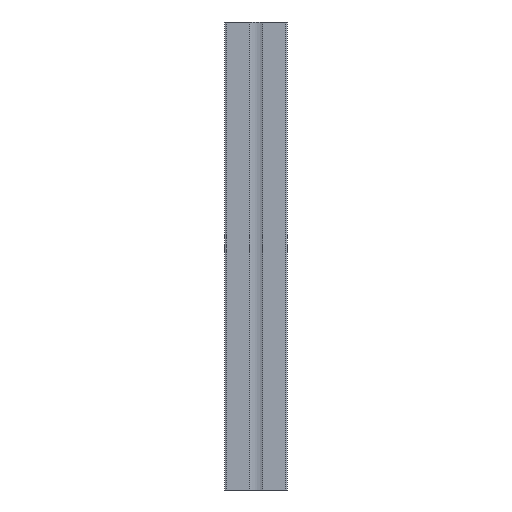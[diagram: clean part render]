
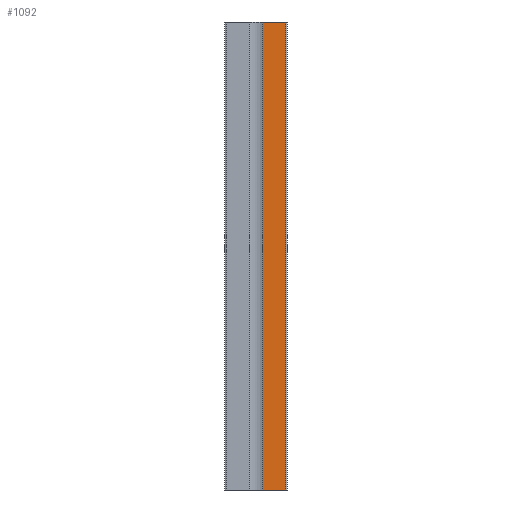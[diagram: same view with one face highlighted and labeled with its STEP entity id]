
A CAD part, left-side view. The second image highlights one B-rep face of the part: STEP entity #1092.
In plain terms, the highlighted planar face has unit normal (-1, 0, 0).
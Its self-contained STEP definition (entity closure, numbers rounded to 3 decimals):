
#32 = LINE ( 'NONE', #1698, #1017 ) ;
#93 = VERTEX_POINT ( 'NONE', #1817 ) ;
#104 = DIRECTION ( 'NONE',  ( 1., 0., 0. ) ) ;
#283 = AXIS2_PLACEMENT_3D ( 'NONE', #304, #104, #1752 ) ;
#288 = CARTESIAN_POINT ( 'NONE',  ( -20., -19.2, 150. ) ) ;
#304 = CARTESIAN_POINT ( 'NONE',  ( -20., -4.2, 150. ) ) ;
#360 = ORIENTED_EDGE ( 'NONE', *, *, #1094, .T. ) ;
#469 = DIRECTION ( 'NONE',  ( 0., 0., -1. ) ) ;
#634 = DIRECTION ( 'NONE',  ( 0., -1., 0. ) ) ;
#652 = CARTESIAN_POINT ( 'NONE',  ( -20., -19.2, 150. ) ) ;
#764 = ORIENTED_EDGE ( 'NONE', *, *, #1737, .T. ) ;
#819 = ORIENTED_EDGE ( 'NONE', *, *, #1485, .F. ) ;
#827 = CARTESIAN_POINT ( 'NONE',  ( -20., -4.2, 150. ) ) ;
#847 = LINE ( 'NONE', #652, #1727 ) ;
#867 = VERTEX_POINT ( 'NONE', #288 ) ;
#875 = PLANE ( 'NONE',  #283 ) ;
#877 = VECTOR ( 'NONE', #1198, 1000. ) ;
#1014 = CARTESIAN_POINT ( 'NONE',  ( -20., -19.2, -150. ) ) ;
#1017 = VECTOR ( 'NONE', #1517, 1000. ) ;
#1032 = LINE ( 'NONE', #827, #1127 ) ;
#1092 = ADVANCED_FACE ( 'NONE', ( #1172 ), #875, .F. ) ;
#1094 = EDGE_CURVE ( 'NONE', #93, #1679, #1579, .T. ) ;
#1127 = VECTOR ( 'NONE', #634, 1000. ) ;
#1172 = FACE_OUTER_BOUND ( 'NONE', #1220, .T. ) ;
#1198 = DIRECTION ( 'NONE',  ( 0., 0., -1. ) ) ;
#1220 = EDGE_LOOP ( 'NONE', ( #764, #1714, #819, #360 ) ) ;
#1288 = VERTEX_POINT ( 'NONE', #1014 ) ;
#1372 = CARTESIAN_POINT ( 'NONE',  ( -20., -4.2, -150. ) ) ;
#1389 = CARTESIAN_POINT ( 'NONE',  ( -20., -4.2, 150. ) ) ;
#1485 = EDGE_CURVE ( 'NONE', #93, #867, #1032, .T. ) ;
#1517 = DIRECTION ( 'NONE',  ( 0., -1., 0. ) ) ;
#1579 = LINE ( 'NONE', #1389, #877 ) ;
#1629 = EDGE_CURVE ( 'NONE', #867, #1288, #847, .T. ) ;
#1679 = VERTEX_POINT ( 'NONE', #1372 ) ;
#1698 = CARTESIAN_POINT ( 'NONE',  ( -20., -4.2, -150. ) ) ;
#1714 = ORIENTED_EDGE ( 'NONE', *, *, #1629, .F. ) ;
#1727 = VECTOR ( 'NONE', #469, 1000. ) ;
#1737 = EDGE_CURVE ( 'NONE', #1679, #1288, #32, .T. ) ;
#1752 = DIRECTION ( 'NONE',  ( 0., 0., -1. ) ) ;
#1817 = CARTESIAN_POINT ( 'NONE',  ( -20., -4.2, 150. ) ) ;
